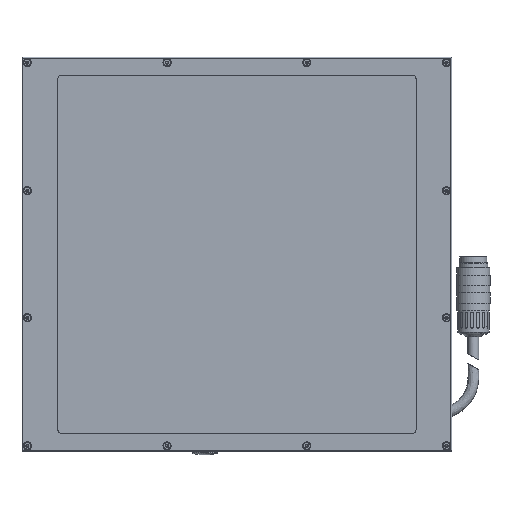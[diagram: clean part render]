
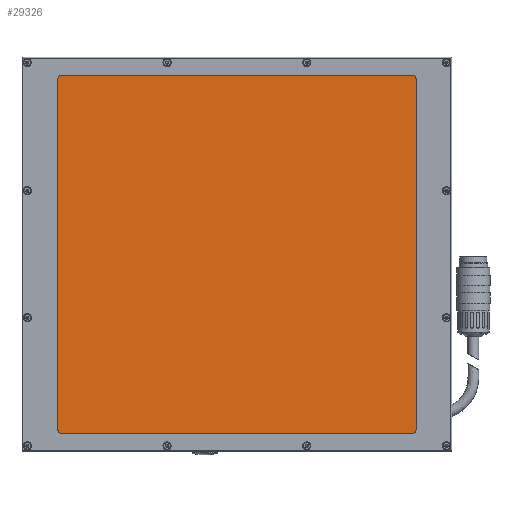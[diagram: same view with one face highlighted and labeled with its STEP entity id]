
A CAD part, top view. The second image highlights one B-rep face of the part: STEP entity #29326.
In plain terms, the highlighted planar face has unit normal (0, 0, 1).
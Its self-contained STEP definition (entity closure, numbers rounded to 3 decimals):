
#2129=CIRCLE('',#31291,2.);
#2130=CIRCLE('',#31293,2.);
#2131=CIRCLE('',#31295,2.);
#2132=CIRCLE('',#31297,2.);
#7332=ORIENTED_EDGE('',*,*,#10507,.T.);
#7333=ORIENTED_EDGE('',*,*,#10510,.T.);
#7334=ORIENTED_EDGE('',*,*,#10504,.T.);
#7335=ORIENTED_EDGE('',*,*,#10511,.T.);
#7336=ORIENTED_EDGE('',*,*,#10501,.T.);
#7337=ORIENTED_EDGE('',*,*,#10512,.T.);
#7338=ORIENTED_EDGE('',*,*,#10497,.T.);
#7339=ORIENTED_EDGE('',*,*,#10509,.T.);
#10497=EDGE_CURVE('',#12581,#12582,#14138,.T.);
#10501=EDGE_CURVE('',#12584,#12583,#14142,.T.);
#10504=EDGE_CURVE('',#12586,#12585,#14145,.T.);
#10507=EDGE_CURVE('',#12588,#12587,#14148,.T.);
#10509=EDGE_CURVE('',#12582,#12588,#2129,.T.);
#10510=EDGE_CURVE('',#12587,#12586,#2130,.T.);
#10511=EDGE_CURVE('',#12585,#12584,#2131,.T.);
#10512=EDGE_CURVE('',#12583,#12581,#2132,.T.);
#12581=VERTEX_POINT('',#49825);
#12582=VERTEX_POINT('',#49826);
#12583=VERTEX_POINT('',#49831);
#12584=VERTEX_POINT('',#49833);
#12585=VERTEX_POINT('',#49837);
#12586=VERTEX_POINT('',#49839);
#12587=VERTEX_POINT('',#49843);
#12588=VERTEX_POINT('',#49845);
#14138=LINE('',#49824,#15611);
#14142=LINE('',#49832,#15615);
#14145=LINE('',#49838,#15618);
#14148=LINE('',#49844,#15621);
#15611=VECTOR('',#36417,1000.);
#15615=VECTOR('',#36423,1000.);
#15618=VECTOR('',#36428,1000.);
#15621=VECTOR('',#36433,1000.);
#17095=EDGE_LOOP('',(#7332,#7333,#7334,#7335,#7336,#7337,#7338,#7339));
#18736=FACE_BOUND('',#17095,.T.);
#19500=PLANE('',#31298);
#29326=ADVANCED_FACE('',(#18736),#19500,.T.);
#31291=AXIS2_PLACEMENT_3D('',#49848,#36437,#36438);
#31293=AXIS2_PLACEMENT_3D('',#49850,#36441,#36442);
#31295=AXIS2_PLACEMENT_3D('',#49852,#36445,#36446);
#31297=AXIS2_PLACEMENT_3D('',#49854,#36449,#36450);
#31298=AXIS2_PLACEMENT_3D('',#49855,#36451,#36452);
#36417=DIRECTION('',(-1.,0.,0.));
#36423=DIRECTION('',(0.,1.,0.));
#36428=DIRECTION('',(1.,0.,0.));
#36433=DIRECTION('',(0.,-1.,0.));
#36437=DIRECTION('',(0.,0.,1.));
#36438=DIRECTION('',(1.,0.,0.));
#36441=DIRECTION('',(0.,0.,1.));
#36442=DIRECTION('',(1.,0.,0.));
#36445=DIRECTION('',(0.,0.,1.));
#36446=DIRECTION('',(1.,0.,0.));
#36449=DIRECTION('',(0.,0.,1.));
#36450=DIRECTION('',(1.,0.,0.));
#36451=DIRECTION('',(0.,0.,1.));
#36452=DIRECTION('',(1.,0.,0.));
#49824=CARTESIAN_POINT('',(100.5,100.5,23.8));
#49825=CARTESIAN_POINT('',(98.5,100.5,23.8));
#49826=CARTESIAN_POINT('',(-98.5,100.5,23.8));
#49831=CARTESIAN_POINT('',(100.5,98.5,23.8));
#49832=CARTESIAN_POINT('',(100.5,-100.5,23.8));
#49833=CARTESIAN_POINT('',(100.5,-98.5,23.8));
#49837=CARTESIAN_POINT('',(98.5,-100.5,23.8));
#49838=CARTESIAN_POINT('',(-100.5,-100.5,23.8));
#49839=CARTESIAN_POINT('',(-98.5,-100.5,23.8));
#49843=CARTESIAN_POINT('',(-100.5,-98.5,23.8));
#49844=CARTESIAN_POINT('',(-100.5,100.5,23.8));
#49845=CARTESIAN_POINT('',(-100.5,98.5,23.8));
#49848=CARTESIAN_POINT('',(-98.5,98.5,23.8));
#49850=CARTESIAN_POINT('',(-98.5,-98.5,23.8));
#49852=CARTESIAN_POINT('',(98.5,-98.5,23.8));
#49854=CARTESIAN_POINT('',(98.5,98.5,23.8));
#49855=CARTESIAN_POINT('',(0.,0.,23.8));
